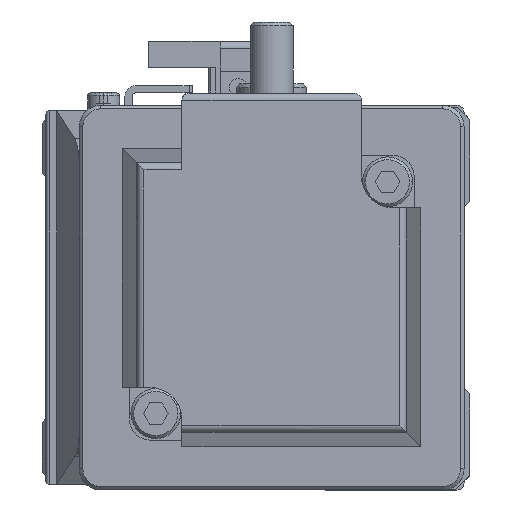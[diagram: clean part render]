
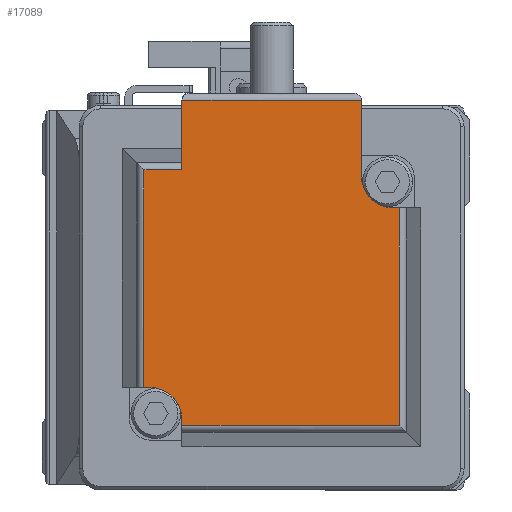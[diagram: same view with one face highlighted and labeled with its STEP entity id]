
A CAD part, left-side view. The second image highlights one B-rep face of the part: STEP entity #17089.
In plain terms, the highlighted planar face has unit normal (-1, 0, 0) as drawn and (0, 1, 0) by its records, which use the part's own axes.
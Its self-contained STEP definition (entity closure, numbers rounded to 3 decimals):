
#269 = ORIENTED_EDGE ( 'NONE', *, *, #16877, .T. ) ;
#1857 = AXIS2_PLACEMENT_3D ( 'NONE', #31589, #21491, #11660 ) ;
#1942 = VERTEX_POINT ( 'NONE', #13918 ) ;
#2228 = CARTESIAN_POINT ( 'NONE',  ( 17.929, 100.6, -12.6 ) ) ;
#2446 = EDGE_CURVE ( 'NONE', #32193, #26817, #8085, .T. ) ;
#2553 = LINE ( 'NONE', #14030, #31329 ) ;
#2820 = EDGE_CURVE ( 'NONE', #4167, #31740, #23257, .T. ) ;
#3043 = ORIENTED_EDGE ( 'NONE', *, *, #2446, .F. ) ;
#3103 = DIRECTION ( 'NONE',  ( 0., 0., -1. ) ) ;
#4167 = VERTEX_POINT ( 'NONE', #13160 ) ;
#4700 = ORIENTED_EDGE ( 'NONE', *, *, #5594, .F. ) ;
#5066 = CARTESIAN_POINT ( 'NONE',  ( 17.929, 100.6, 25. ) ) ;
#5298 = DIRECTION ( 'NONE',  ( 0., 0., 1. ) ) ;
#5594 = EDGE_CURVE ( 'NONE', #30069, #22995, #13852, .T. ) ;
#5905 = VECTOR ( 'NONE', #23605, 1000. ) ;
#6134 = ORIENTED_EDGE ( 'NONE', *, *, #18813, .T. ) ;
#6250 = DIRECTION ( 'NONE',  ( 0., 0., 1. ) ) ;
#6573 = CARTESIAN_POINT ( 'NONE',  ( 27.7, 100.6, 12.6 ) ) ;
#7003 = CARTESIAN_POINT ( 'NONE',  ( 27.7, 100.6, -12.6 ) ) ;
#7393 = DIRECTION ( 'NONE',  ( 1., 0., 0. ) ) ;
#8085 = CIRCLE ( 'NONE', #1857, 4.5 ) ;
#8519 = CARTESIAN_POINT ( 'NONE',  ( 12.6, 100.6, 17.929 ) ) ;
#8554 = AXIS2_PLACEMENT_3D ( 'NONE', #23305, #25879, #3103 ) ;
#8856 = CARTESIAN_POINT ( 'NONE',  ( 17.1, 100.6, 12.6 ) ) ;
#9370 = LINE ( 'NONE', #12098, #14156 ) ;
#9849 = CARTESIAN_POINT ( 'NONE',  ( 17.929, 100.6, -17.929 ) ) ;
#9852 = DIRECTION ( 'NONE',  ( -1., 0., 0. ) ) ;
#10293 = LINE ( 'NONE', #15336, #13063 ) ;
#10406 = VERTEX_POINT ( 'NONE', #27437 ) ;
#11472 = CARTESIAN_POINT ( 'NONE',  ( 17.929, 100.6, -12.6 ) ) ;
#11631 = DIRECTION ( 'NONE',  ( 0., 0., 1. ) ) ;
#11660 = DIRECTION ( 'NONE',  ( 0., 0., -1. ) ) ;
#12098 = CARTESIAN_POINT ( 'NONE',  ( 17.929, 100.6, 12.6 ) ) ;
#12111 = ORIENTED_EDGE ( 'NONE', *, *, #17994, .F. ) ;
#13063 = VECTOR ( 'NONE', #5298, 1000. ) ;
#13160 = CARTESIAN_POINT ( 'NONE',  ( 17.929, 100.6, -17.929 ) ) ;
#13241 = EDGE_CURVE ( 'NONE', #22995, #20107, #18166, .T. ) ;
#13519 = CARTESIAN_POINT ( 'NONE',  ( -17.929, 100.6, 25. ) ) ;
#13852 = LINE ( 'NONE', #13519, #5905 ) ;
#13918 = CARTESIAN_POINT ( 'NONE',  ( -12.6, 100.6, -17.1 ) ) ;
#13931 = ORIENTED_EDGE ( 'NONE', *, *, #25315, .F. ) ;
#14030 = CARTESIAN_POINT ( 'NONE',  ( -12.6, 100.6, -21. ) ) ;
#14156 = VECTOR ( 'NONE', #9852, 1000. ) ;
#15001 = AXIS2_PLACEMENT_3D ( 'NONE', #29556, #19390, #21841 ) ;
#15068 = VECTOR ( 'NONE', #11631, 1000. ) ;
#15230 = EDGE_CURVE ( 'NONE', #26817, #32303, #10293, .T. ) ;
#15336 = CARTESIAN_POINT ( 'NONE',  ( 12.6, 100.6, 25. ) ) ;
#16041 = ORIENTED_EDGE ( 'NONE', *, *, #13241, .F. ) ;
#16179 = EDGE_CURVE ( 'NONE', #31740, #19710, #17043, .T. ) ;
#16877 = EDGE_CURVE ( 'NONE', #1942, #20107, #28211, .T. ) ;
#17043 = LINE ( 'NONE', #28877, #32666 ) ;
#17089 = ADVANCED_FACE ( 'NONE', ( #29020 ), #29226, .F. ) ;
#17994 = EDGE_CURVE ( 'NONE', #10406, #4167, #23346, .T. ) ;
#18166 = LINE ( 'NONE', #2228, #24564 ) ;
#18813 = EDGE_CURVE ( 'NONE', #10406, #1942, #2553, .T. ) ;
#19358 = VECTOR ( 'NONE', #7393, 1000. ) ;
#19390 = DIRECTION ( 'NONE',  ( 0., -1., 0. ) ) ;
#19710 = VERTEX_POINT ( 'NONE', #7003 ) ;
#20107 = VERTEX_POINT ( 'NONE', #30867 ) ;
#20627 = VECTOR ( 'NONE', #23431, 1000. ) ;
#20662 = ORIENTED_EDGE ( 'NONE', *, *, #27337, .F. ) ;
#21491 = DIRECTION ( 'NONE',  ( 0., 1., 0. ) ) ;
#21841 = DIRECTION ( 'NONE',  ( 0., 0., -1. ) ) ;
#21858 = LINE ( 'NONE', #32218, #15068 ) ;
#22174 = VERTEX_POINT ( 'NONE', #6573 ) ;
#22995 = VERTEX_POINT ( 'NONE', #32675 ) ;
#23257 = LINE ( 'NONE', #5066, #30886 ) ;
#23305 = CARTESIAN_POINT ( 'NONE',  ( -17.1, 100.6, -17.1 ) ) ;
#23346 = LINE ( 'NONE', #9849, #19358 ) ;
#23431 = DIRECTION ( 'NONE',  ( -1., 0., 0. ) ) ;
#23605 = DIRECTION ( 'NONE',  ( 0., 0., -1. ) ) ;
#23905 = ORIENTED_EDGE ( 'NONE', *, *, #2820, .F. ) ;
#24286 = ORIENTED_EDGE ( 'NONE', *, *, #16179, .F. ) ;
#24564 = VECTOR ( 'NONE', #27783, 1000. ) ;
#25315 = EDGE_CURVE ( 'NONE', #19710, #22174, #21858, .T. ) ;
#25659 = EDGE_CURVE ( 'NONE', #32303, #30069, #25830, .T. ) ;
#25830 = LINE ( 'NONE', #28680, #20627 ) ;
#25879 = DIRECTION ( 'NONE',  ( 0., -1., 0. ) ) ;
#25985 = ORIENTED_EDGE ( 'NONE', *, *, #25659, .F. ) ;
#26817 = VERTEX_POINT ( 'NONE', #28499 ) ;
#27337 = EDGE_CURVE ( 'NONE', #22174, #32193, #9370, .T. ) ;
#27437 = CARTESIAN_POINT ( 'NONE',  ( -12.6, 100.6, -17.929 ) ) ;
#27758 = DIRECTION ( 'NONE',  ( 0., 0., 1. ) ) ;
#27783 = DIRECTION ( 'NONE',  ( 1., 0., 0. ) ) ;
#28211 = CIRCLE ( 'NONE', #8554, 4.5 ) ;
#28478 = ORIENTED_EDGE ( 'NONE', *, *, #15230, .F. ) ;
#28499 = CARTESIAN_POINT ( 'NONE',  ( 12.6, 100.6, 17.1 ) ) ;
#28654 = DIRECTION ( 'NONE',  ( 1., 0., 0. ) ) ;
#28680 = CARTESIAN_POINT ( 'NONE',  ( 17.929, 100.6, 17.929 ) ) ;
#28877 = CARTESIAN_POINT ( 'NONE',  ( 17.929, 100.6, -12.6 ) ) ;
#29020 = FACE_OUTER_BOUND ( 'NONE', #33051, .T. ) ;
#29226 = PLANE ( 'NONE',  #15001 ) ;
#29556 = CARTESIAN_POINT ( 'NONE',  ( 17.929, 100.6, 25. ) ) ;
#30069 = VERTEX_POINT ( 'NONE', #31390 ) ;
#30867 = CARTESIAN_POINT ( 'NONE',  ( -17.1, 100.6, -12.6 ) ) ;
#30886 = VECTOR ( 'NONE', #27758, 1000. ) ;
#31329 = VECTOR ( 'NONE', #6250, 1000. ) ;
#31390 = CARTESIAN_POINT ( 'NONE',  ( -17.929, 100.6, 17.929 ) ) ;
#31589 = CARTESIAN_POINT ( 'NONE',  ( 17.1, 100.6, 17.1 ) ) ;
#31740 = VERTEX_POINT ( 'NONE', #11472 ) ;
#32193 = VERTEX_POINT ( 'NONE', #8856 ) ;
#32218 = CARTESIAN_POINT ( 'NONE',  ( 27.7, 100.6, 25. ) ) ;
#32303 = VERTEX_POINT ( 'NONE', #8519 ) ;
#32666 = VECTOR ( 'NONE', #28654, 1000. ) ;
#32675 = CARTESIAN_POINT ( 'NONE',  ( -17.929, 100.6, -12.6 ) ) ;
#33051 = EDGE_LOOP ( 'NONE', ( #20662, #13931, #24286, #23905, #12111, #6134, #269, #16041, #4700, #25985, #28478, #3043 ) ) ;
